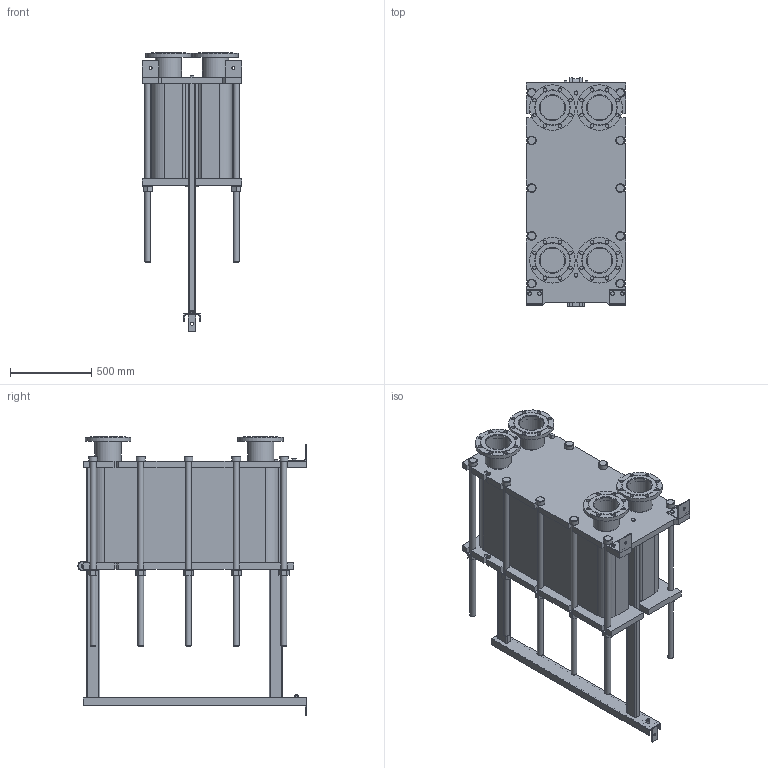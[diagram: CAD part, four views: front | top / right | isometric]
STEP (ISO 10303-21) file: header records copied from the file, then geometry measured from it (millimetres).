
FILE_DESCRIPTION(/* description */ (''),/* implementation_level */ '2;1');
FILE_NAME(/* name */ 'C:\Users\zhuro\Desktop\ENCO\TO\ЭН-041\ЭН-0,5-041-170-1.stp',/* time_stamp */ '2022-06-06T11:04:33+03:00',/* author */ ('zhuro'),/* organization */ (''),/* preprocessor_version */ 'ST-DEVELOPER v18.1',/* originating_system */ 'Autodesk Inventor 2022',/* authorisation */ '');
FILE_SCHEMA (('AUTOMOTIVE_DESIGN { 1 0 10303 214 3 1 1 }'));
Length unit declared in the file: millimetre
Products named in the file (1): ЭН-0,5-041-170-1
Bounding box: 610 x 1406.5 x 1715 mm (x, y, z)
Volume: 415261695 mm3; surface area: 10567953.7 mm2
Topology: 52 solids, 52 shells, 711 faces, 1696 edges, 1094 vertices
Faces by surface type: plane 487, cylinder 177, cone 41, torus 6
Full cylindrical faces by diameter (mm): 8 x4, 10 x2, 16 x8, 18 x3, 22 x32, 36 x24, 50 x1, 54 x10, 60 x12, 151 x4, 161 x8, 280 x4
Entity records: 22667 total; most frequent: CARTESIAN_POINT 5230, DIRECTION 3644, ORIENTED_EDGE 3392, EDGE_CURVE 1696, AXIS2_PLACEMENT_3D 1272, LINE 1100, VECTOR 1100, VERTEX_POINT 1094
